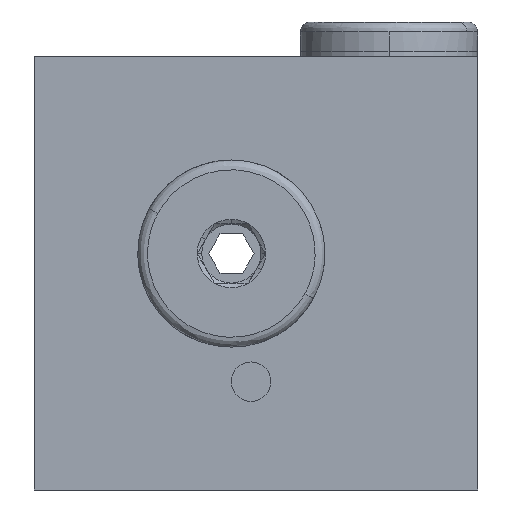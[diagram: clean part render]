
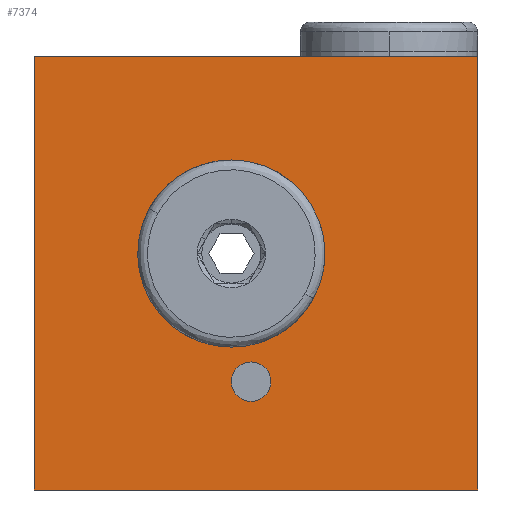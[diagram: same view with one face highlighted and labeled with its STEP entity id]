
A CAD part, left-side view. The second image highlights one B-rep face of the part: STEP entity #7374.
In plain terms, the highlighted planar face has unit normal (-1, 0, 0).
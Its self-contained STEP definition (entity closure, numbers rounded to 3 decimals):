
#73 = LINE ( 'NONE', #3408, #1889 ) ;
#420 = VERTEX_POINT ( 'NONE', #3365 ) ;
#602 = DIRECTION ( 'NONE',  ( -1., 0., 0. ) ) ;
#847 = EDGE_CURVE ( 'NONE', #4707, #1901, #2378, .T. ) ;
#947 = VERTEX_POINT ( 'NONE', #3343 ) ;
#987 = VECTOR ( 'NONE', #6737, 1000. ) ;
#1025 = EDGE_CURVE ( 'NONE', #1108, #6819, #73, .T. ) ;
#1108 = VERTEX_POINT ( 'NONE', #8109 ) ;
#1146 = CARTESIAN_POINT ( 'NONE',  ( 0., 18., 44. ) ) ;
#1154 = CARTESIAN_POINT ( 'NONE',  ( 0., -4., 11. ) ) ;
#1194 = DIRECTION ( 'NONE',  ( 1., 0., 0. ) ) ;
#1264 = ORIENTED_EDGE ( 'NONE', *, *, #1483, .T. ) ;
#1446 = LINE ( 'NONE', #3539, #5168 ) ;
#1483 = EDGE_CURVE ( 'NONE', #1108, #7597, #1446, .T. ) ;
#1693 = DIRECTION ( 'NONE',  ( -1., 0., 0. ) ) ;
#1734 = EDGE_CURVE ( 'NONE', #4572, #420, #2948, .T. ) ;
#1762 = DIRECTION ( 'NONE',  ( -1., 0., 0. ) ) ;
#1849 = DIRECTION ( 'NONE',  ( 0., 0., -1. ) ) ;
#1889 = VECTOR ( 'NONE', #5552, 1000. ) ;
#1901 = VERTEX_POINT ( 'NONE', #4731 ) ;
#1962 = AXIS2_PLACEMENT_3D ( 'NONE', #4768, #602, #5483 ) ;
#2016 = FACE_OUTER_BOUND ( 'NONE', #2421, .T. ) ;
#2156 = CARTESIAN_POINT ( 'NONE',  ( 0., -27., 0. ) ) ;
#2378 = CIRCLE ( 'NONE', #2608, 2. ) ;
#2421 = EDGE_LOOP ( 'NONE', ( #3168, #2573, #7464, #1264 ) ) ;
#2573 = ORIENTED_EDGE ( 'NONE', *, *, #4499, .T. ) ;
#2608 = AXIS2_PLACEMENT_3D ( 'NONE', #1154, #6022, #1849 ) ;
#2830 = LINE ( 'NONE', #6044, #987 ) ;
#2948 = CIRCLE ( 'NONE', #8666, 7.188 ) ;
#3152 = VECTOR ( 'NONE', #7104, 1000. ) ;
#3168 = ORIENTED_EDGE ( 'NONE', *, *, #8918, .F. ) ;
#3271 = ORIENTED_EDGE ( 'NONE', *, *, #1734, .F. ) ;
#3343 = CARTESIAN_POINT ( 'NONE',  ( 0., -27., 44. ) ) ;
#3365 = CARTESIAN_POINT ( 'NONE',  ( 0., -2., 16.812 ) ) ;
#3408 = CARTESIAN_POINT ( 'NONE',  ( 0., 18., 0. ) ) ;
#3539 = CARTESIAN_POINT ( 'NONE',  ( 0., 0., 0. ) ) ;
#3790 = CARTESIAN_POINT ( 'NONE',  ( 0., -4., 13. ) ) ;
#4034 = ORIENTED_EDGE ( 'NONE', *, *, #4534, .F. ) ;
#4454 = AXIS2_PLACEMENT_3D ( 'NONE', #5933, #1762, #6621 ) ;
#4499 = EDGE_CURVE ( 'NONE', #947, #6819, #2830, .T. ) ;
#4534 = EDGE_CURVE ( 'NONE', #1901, #4707, #6867, .T. ) ;
#4572 = VERTEX_POINT ( 'NONE', #7612 ) ;
#4648 = PLANE ( 'NONE',  #5849 ) ;
#4704 = ORIENTED_EDGE ( 'NONE', *, *, #847, .F. ) ;
#4707 = VERTEX_POINT ( 'NONE', #3790 ) ;
#4731 = CARTESIAN_POINT ( 'NONE',  ( 0., -4., 9. ) ) ;
#4768 = CARTESIAN_POINT ( 'NONE',  ( 0., -4., 11. ) ) ;
#4909 = DIRECTION ( 'NONE',  ( 0., -1., 0. ) ) ;
#5168 = VECTOR ( 'NONE', #4909, 1000. ) ;
#5389 = CARTESIAN_POINT ( 'NONE',  ( 0., 0., 44. ) ) ;
#5483 = DIRECTION ( 'NONE',  ( 0., 0., -1. ) ) ;
#5522 = FACE_BOUND ( 'NONE', #8153, .T. ) ;
#5552 = DIRECTION ( 'NONE',  ( 0., 0., 1. ) ) ;
#5803 = EDGE_LOOP ( 'NONE', ( #3271, #7316 ) ) ;
#5849 = AXIS2_PLACEMENT_3D ( 'NONE', #5389, #1194, #6064 ) ;
#5865 = CARTESIAN_POINT ( 'NONE',  ( 0., -2., 24. ) ) ;
#5933 = CARTESIAN_POINT ( 'NONE',  ( 0., -2., 24. ) ) ;
#6022 = DIRECTION ( 'NONE',  ( -1., 0., 0. ) ) ;
#6044 = CARTESIAN_POINT ( 'NONE',  ( 0., 0., 44. ) ) ;
#6064 = DIRECTION ( 'NONE',  ( 0., 0., -1. ) ) ;
#6399 = CARTESIAN_POINT ( 'NONE',  ( 0., -27., 44. ) ) ;
#6408 = CIRCLE ( 'NONE', #4454, 7.188 ) ;
#6560 = DIRECTION ( 'NONE',  ( 0., 0., 1. ) ) ;
#6621 = DIRECTION ( 'NONE',  ( 0., 0., 1. ) ) ;
#6737 = DIRECTION ( 'NONE',  ( 0., 1., 0. ) ) ;
#6740 = EDGE_CURVE ( 'NONE', #420, #4572, #6408, .T. ) ;
#6819 = VERTEX_POINT ( 'NONE', #1146 ) ;
#6867 = CIRCLE ( 'NONE', #1962, 2. ) ;
#7104 = DIRECTION ( 'NONE',  ( 0., 0., -1. ) ) ;
#7316 = ORIENTED_EDGE ( 'NONE', *, *, #6740, .F. ) ;
#7361 = FACE_BOUND ( 'NONE', #5803, .T. ) ;
#7374 = ADVANCED_FACE ( 'NONE', ( #7361, #5522, #2016 ), #4648, .F. ) ;
#7464 = ORIENTED_EDGE ( 'NONE', *, *, #1025, .F. ) ;
#7597 = VERTEX_POINT ( 'NONE', #2156 ) ;
#7612 = CARTESIAN_POINT ( 'NONE',  ( 0., -2., 31.188 ) ) ;
#8109 = CARTESIAN_POINT ( 'NONE',  ( 0., 18., 0. ) ) ;
#8153 = EDGE_LOOP ( 'NONE', ( #4034, #4704 ) ) ;
#8467 = LINE ( 'NONE', #6399, #3152 ) ;
#8666 = AXIS2_PLACEMENT_3D ( 'NONE', #5865, #1693, #6560 ) ;
#8918 = EDGE_CURVE ( 'NONE', #947, #7597, #8467, .T. ) ;
